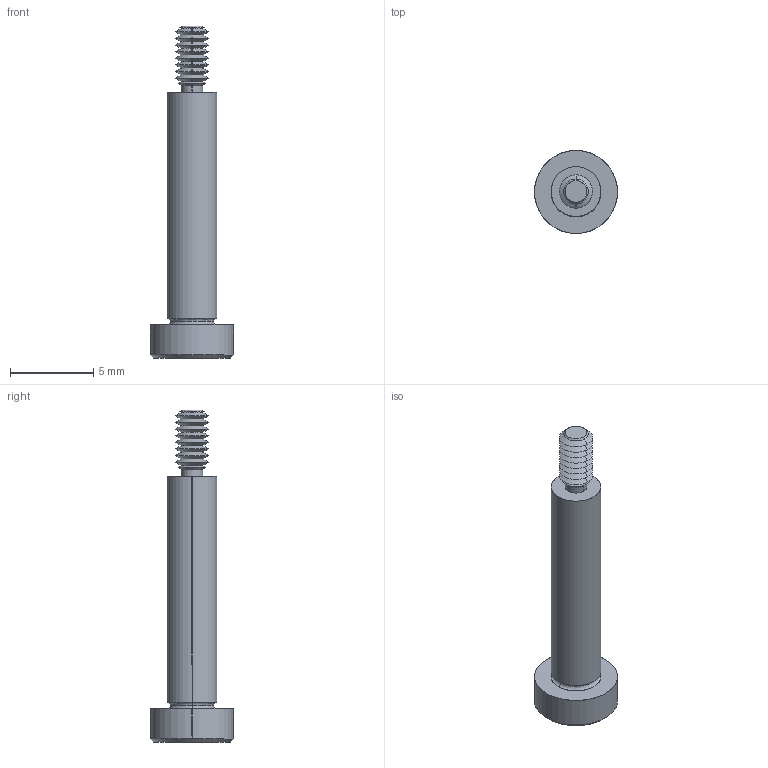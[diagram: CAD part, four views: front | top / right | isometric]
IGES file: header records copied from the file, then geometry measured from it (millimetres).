
Start section: SolidWorks IGES file using analytic representation for surfaces
Global section: file name: C:\Users\IanO\Documents\Temp Folder\GENERAL\SCREW REVISION\P0130_v2\P0130.T5_v2_20220106_IGES\P0130.030-014-T5.igs; native system: SolidWorks 2019; preprocessor: SolidWorks 2019; author: IanO; date: 220106.220139; units: millimetre
Bounding box: 5 x 5 x 20 mm (x, y, z)
Surface area: 248.2 mm2 (no closed solid volume)
Topology: 0 solids, 0 shells, 76 faces, 508 edges, 506 vertices
Faces by surface type: revolution 56, bspline 20
